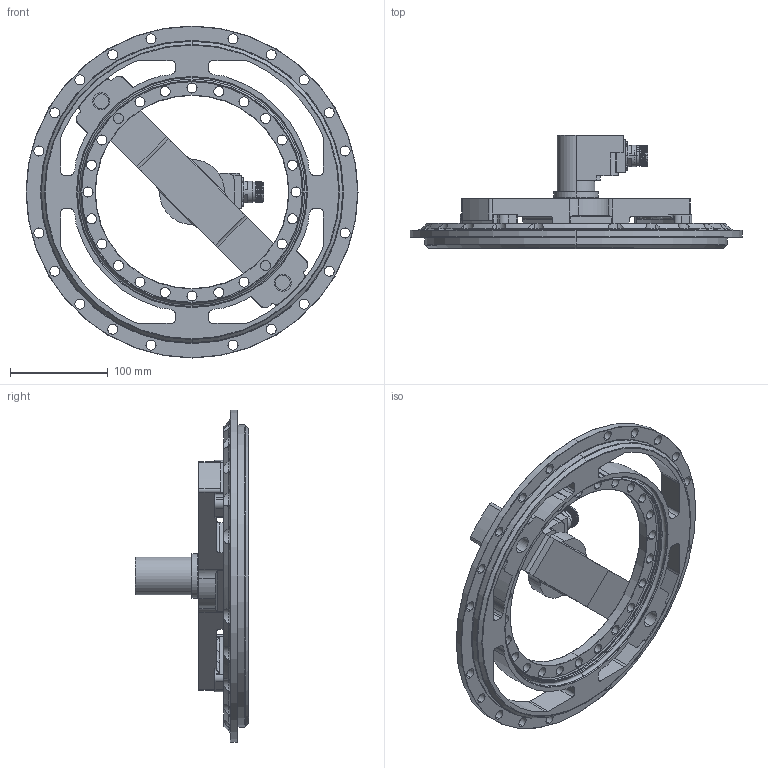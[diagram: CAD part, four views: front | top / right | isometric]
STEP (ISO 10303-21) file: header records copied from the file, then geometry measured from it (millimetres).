
FILE_DESCRIPTION (( 'STEP AP214' ), '1' );
FILE_NAME ('1015356.STEP', '2020-03-19T16:51:05', ( '' ), ( '' ), 'SwSTEP 2.0', 'SolidWorks 2019', '' );
FILE_SCHEMA (( 'AUTOMOTIVE_DESIGN' ));
Length unit declared in the file: inch
Products named in the file (1): 1015356
Bounding box: 340.36 x 116.13 x 340.36 mm (x, y, z)
Volume: 1204585.2 mm3; surface area: 261206.2 mm2
Topology: 2 solids, 3 shells, 1673 faces, 4679 edges, 3010 vertices
Faces by surface type: plane 779, cylinder 462, torus 193, cone 145, bspline 94
Entity records: 59890 total; most frequent: CARTESIAN_POINT 18342, ORIENTED_EDGE 9254, DIRECTION 7931, EDGE_CURVE 4627, VERTEX_POINT 3010, AXIS2_PLACEMENT_3D 2941, LINE 2049, VECTOR 2049
